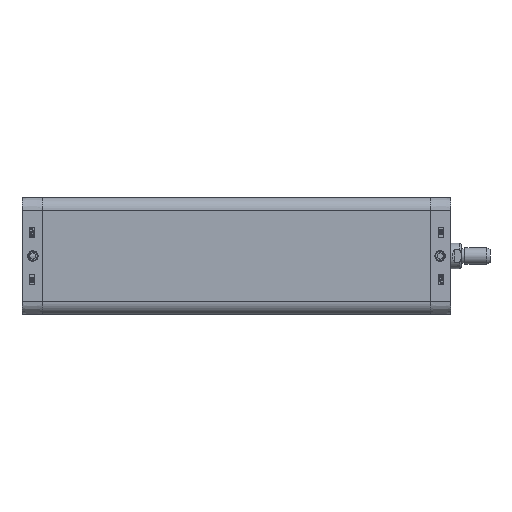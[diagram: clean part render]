
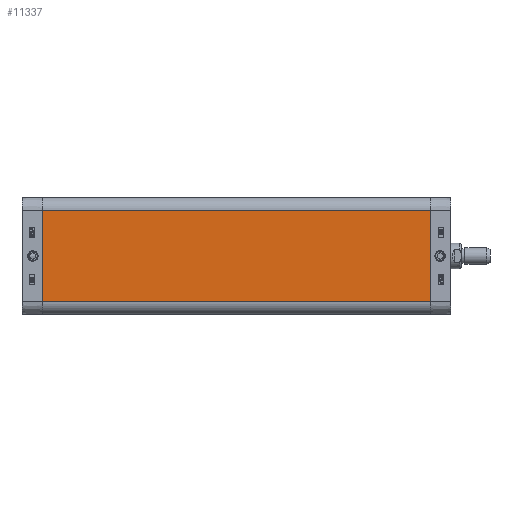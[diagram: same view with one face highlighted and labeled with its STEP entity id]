
A CAD part, left-side view. The second image highlights one B-rep face of the part: STEP entity #11337.
In plain terms, the highlighted planar face has unit normal (-1, 0, 0).
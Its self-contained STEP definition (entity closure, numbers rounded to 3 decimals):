
#5702=CARTESIAN_POINT('',(-56.65,-378.0,44.4));
#5703=VERTEX_POINT('',#5702);
#5710=CARTESIAN_POINT('',(-56.65,-378.0,-44.4));
#5711=VERTEX_POINT('',#5710);
#5712=CARTESIAN_POINT('',(-56.65,-378.0,-44.4));
#5713=DIRECTION('',(0.0,0.0,1.0));
#5714=VECTOR('',#5713,88.8);
#5715=LINE('',#5712,#5714);
#5716=EDGE_CURVE('',#5711,#5703,#5715,.T.);
#11295=CARTESIAN_POINT('',(-56.65,0.0,-44.4));
#11296=VERTEX_POINT('',#11295);
#11297=CARTESIAN_POINT('',(-56.65,0.0,-44.4));
#11298=DIRECTION('',(0.0,-1.0,0.0));
#11299=VECTOR('',#11298,378.0);
#11300=LINE('',#11297,#11299);
#11301=EDGE_CURVE('',#11296,#5711,#11300,.T.);
#11314=CARTESIAN_POINT('',(-56.65,0.0,-44.4));
#11315=DIRECTION('',(-1.0,0.0,0.0));
#11316=DIRECTION('',(0.0,0.0,1.0));
#11317=AXIS2_PLACEMENT_3D('',#11314,#11315,#11316);
#11318=PLANE('',#11317);
#11319=ORIENTED_EDGE('',*,*,#5716,.T.);
#11320=CARTESIAN_POINT('',(-56.65,0.0,44.4));
#11321=VERTEX_POINT('',#11320);
#11322=CARTESIAN_POINT('',(-56.65,0.0,44.4));
#11323=DIRECTION('',(0.0,-1.0,0.0));
#11324=VECTOR('',#11323,378.0);
#11325=LINE('',#11322,#11324);
#11326=EDGE_CURVE('',#11321,#5703,#11325,.T.);
#11327=ORIENTED_EDGE('',*,*,#11326,.F.);
#11328=CARTESIAN_POINT('',(-56.65,0.0,-44.4));
#11329=DIRECTION('',(0.0,0.0,1.0));
#11330=VECTOR('',#11329,88.8);
#11331=LINE('',#11328,#11330);
#11332=EDGE_CURVE('',#11296,#11321,#11331,.T.);
#11333=ORIENTED_EDGE('',*,*,#11332,.F.);
#11334=ORIENTED_EDGE('',*,*,#11301,.T.);
#11335=EDGE_LOOP('',(#11319,#11327,#11333,#11334));
#11336=FACE_OUTER_BOUND('',#11335,.T.);
#11337=ADVANCED_FACE('',(#11336),#11318,.T.);
